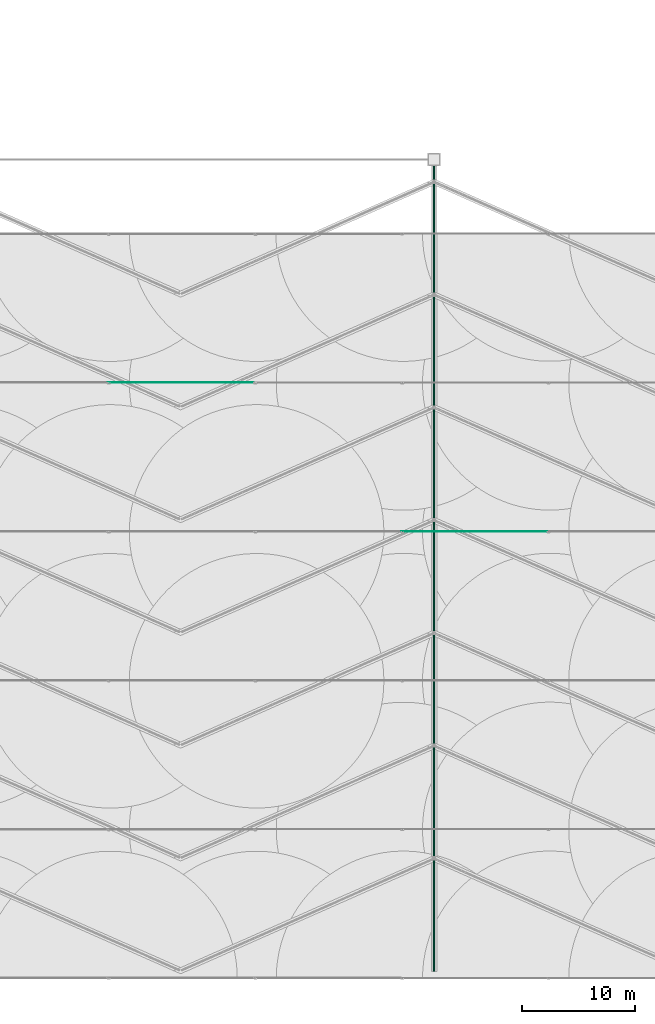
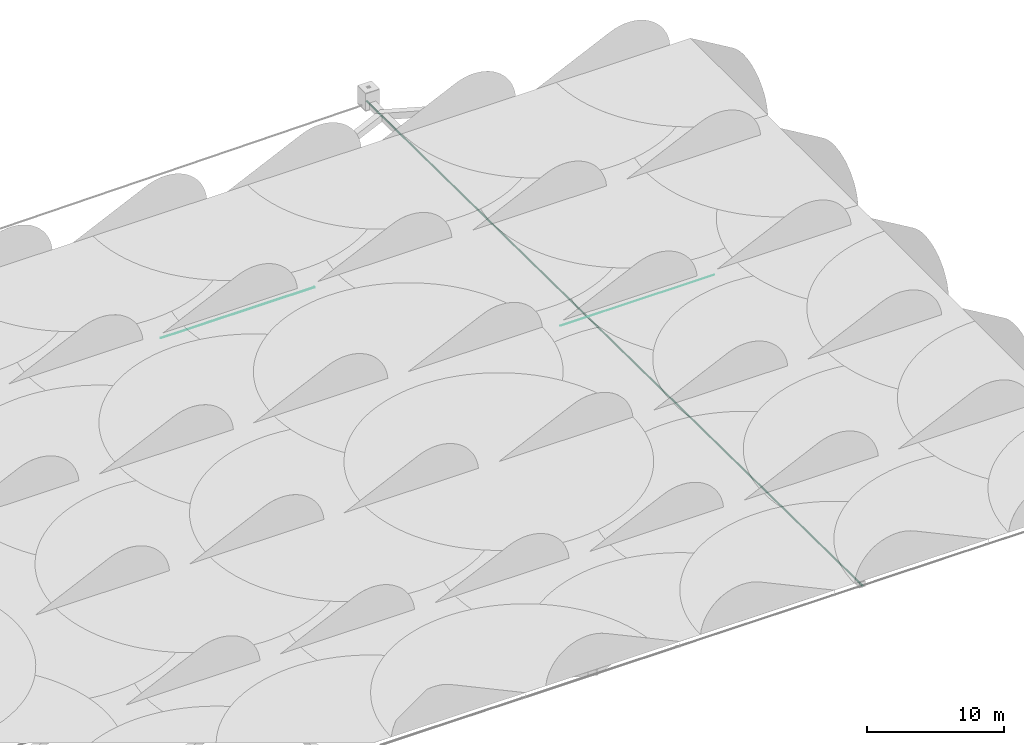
# One storey, part 37 of 166: 3 flow segments.
"""IFC2X3 building model written with IfcOpenShell, lengths in metres."""

from ifc_helpers import new_model, entity, si_unit, converted_unit, direction, frame, frame_2d, origin, origin_2d_with_axis, place, context, subcontext, project, spatial, circle, extrude, type_object, element, save


model = new_model("IFC2X3")

# Units and contexts
model_context = context("Model", 3, precision=1e-05, world=origin(), true_north=direction((6.123233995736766e-17, 1.0)))
body_context = subcontext(model_context, "Body", "Model", "MODEL_VIEW")
ifc_project = project(units=[si_unit("LENGTHUNIT", "METRE"), converted_unit("PLANEANGLEUNIT", "DEGREE", entity("IfcPlaneAngleMeasure", 0.017453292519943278), si_unit("PLANEANGLEUNIT", "RADIAN"), dimensions=[0, 0, 0, 0, 0, 0, 0]), si_unit("AREAUNIT", "SQUARE_METRE")], contexts=[model_context])

# Site, building, storey
site_placement = place(None, origin())
site = spatial("IfcSite", under=ifc_project, at=site_placement, Name="Default", CompositionType="ELEMENT")
building_placement = place(site_placement, origin())
building = spatial("IfcBuilding", under=site, at=building_placement, Name="CASA DE ACOLHIDA PARA IDOSOS", CompositionType="ELEMENT")
storey_placement = place(building_placement, frame((0.0, 0.0, -1.7499999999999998)))
storey = spatial("IfcBuildingStorey", under=building, at=storey_placement, Name="IMPLANTAÇÃO DRENAGEM", CompositionType="ELEMENT", Elevation=-1.7499999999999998)

# Flow segments
pipe_segment_type_1 = type_object("IfcPipeSegmentType", Name="Tipos de tubos:PLUV_Tubo PEAD Corrugado", PredefinedType="NOTDEFINED")
flow_segment_1_placement = place(storey_placement, origin())
element("IfcFlowSegment", 1, at=flow_segment_1_placement, inside=storey, type_object=pipe_segment_type_1, Name="Tipos de tubos:PLUV_Tubo PEAD Corrugado", ObjectType="Tipos de tubos:PLUV_Tubo PEAD Corrugado", context=body_context, shape_type="SweptSolid", body=[
    extrude(circle(Radius=0.07500000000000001, at=origin_2d_with_axis()), frame((22.96863342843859, -16.13927408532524, -0.6952999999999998), z_axis=(0.0, 0.9999500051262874, -0.00999936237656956), x_axis=(-1.0, 0.0, 0.0)), (0.0, 0.0, 1.0), 72.29702677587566),
])
pipe_segment_type_2 = type_object("IfcPipeSegmentType", Name="Tipos de tubos:AF_Tubo Marrom Soldável", PredefinedType="NOTDEFINED")
flow_segment_2_placement = place(storey_placement, origin())
element("IfcFlowSegment", 2, at=flow_segment_2_placement, inside=storey, type_object=pipe_segment_type_2, Name="Tipos de tubos:AF_Tubo Marrom Soldável", ObjectType="Tipos de tubos:AF_Tubo Marrom Soldável", context=body_context, shape_type="SweptSolid", body=[
    extrude(circle(Radius=0.025, at=frame_2d((0.0, -2.707167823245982e-16), x_axis=(1.0, 0.0))), frame((-5.958348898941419, 36.05494207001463, -0.19999999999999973), z_axis=(1.0, 0.0, 0.0), x_axis=(0.0, -1.0, 0.0)), (0.0, 0.0, 1.0), 12.9348),
])
flow_segment_3_placement = place(storey_placement, origin())
element("IfcFlowSegment", 3, at=flow_segment_3_placement, inside=storey, type_object=pipe_segment_type_2, Name="Tipos de tubos:AF_Tubo Marrom Soldável", ObjectType="Tipos de tubos:AF_Tubo Marrom Soldável", context=body_context, shape_type="SweptSolid", body=[
    extrude(circle(Radius=0.0125, at=origin_2d_with_axis()), frame((20.06475371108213, 22.85494207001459, -0.19999999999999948), z_axis=(1.0, 0.0, 0.0), x_axis=(0.0, -1.0, 0.0)), (0.0, 0.0, 1.0), 12.928397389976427),
])

save(model, "model.ifc")
